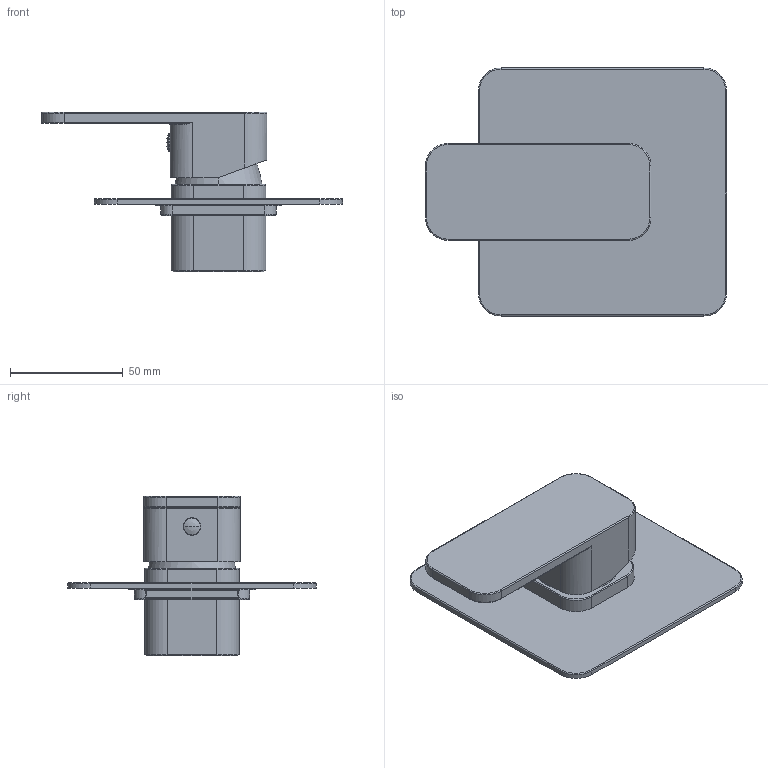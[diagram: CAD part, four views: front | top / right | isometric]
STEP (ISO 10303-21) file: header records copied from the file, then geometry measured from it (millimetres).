
FILE_DESCRIPTION((''),'2;1');
FILE_NAME('153823501OLT_ASM','2025-02-10T10:43:57',('tec19'),(''),'CREO PARAMETRIC BY PTC INC, 2018260','CREO PARAMETRIC BY PTC INC, 2018260','');
FILE_SCHEMA(('CONFIG_CONTROL_DESIGN'));
Length unit declared in the file: millimetre
Products named in the file (15): 206094671602_1_1_1; 205020030102_1_1_1; 208000840601_AF0_1_1_1; 208000840601_AF1_1_1_1; 206094420126_1_1_1; 205055150126_1_1_1; 202012380226_1_1_1; 205010171601_1_1_1; 206029101626_1_1; 207012450601_1_1_1; 202030410726_1_1_1; 153823501OLT_ASM_2_ASM_1_ASM; 206080950701_1; 153823501OLT_ASM_1_ASM; 153823501OLT_ASM
Assembly tree (14 placements, depth 4):
  153823501OLT_ASM
    153823501OLT_ASM_1_ASM
      153823501OLT_ASM_2_ASM_1_ASM
        206094671602_1_1_1
        205020030102_1_1_1
        208000840601_AF0_1_1_1
        208000840601_AF1_1_1_1
        206094420126_1_1_1
        205055150126_1_1_1
        202012380226_1_1_1
        205010171601_1_1_1
        206029101626_1_1
        207012450601_1_1_1
        202030410726_1_1_1
      206080950701_1
Bounding box: 133.5 x 110 x 70.85 mm (x, y, z)
Volume: 87918 mm3; surface area: 75839.1 mm2
Topology: 12 solids, 12 shells, 623 faces, 1636 edges, 1060 vertices
Faces by surface type: plane 346, cylinder 167, torus 56, bspline 28, cone 24, sphere 2
Entity records: 22294 total; most frequent: CARTESIAN_POINT 6524, ORIENTED_EDGE 3268, DIRECTION 3201, EDGE_CURVE 1634, AXIS2_PLACEMENT_3D 1068, VECTOR 1065, LINE 1065, VERTEX_POINT 1060
